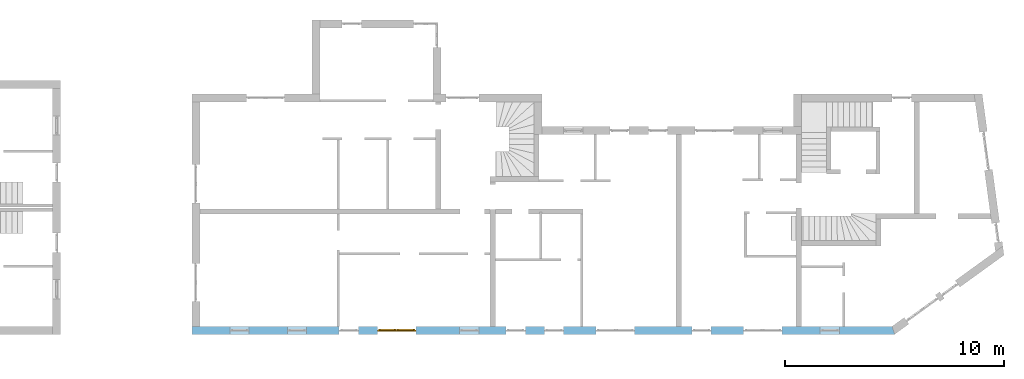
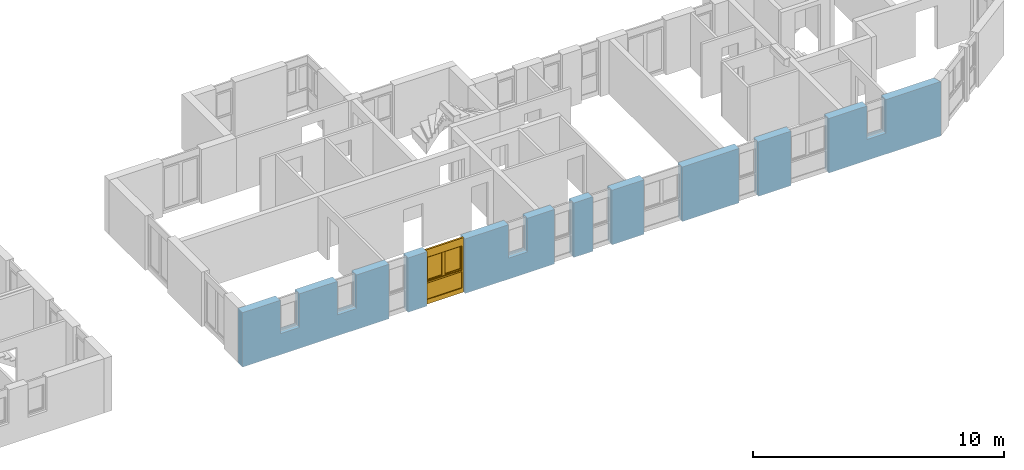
# One storey, part 27 of 42: 1 window, 11 openings, plus 1 element that does not belong to this part.
"""IFC2X3 building model written with IfcOpenShell, lengths in millimetres."""

from ifc_helpers import new_model, entity, si_unit, converted_unit, frame, frame_2d, origin, origin_with_axes, place, context, subcontext, project, spatial, polyline, rectangle, outline, extrude, faceted_brep, material, layer, layer_set, layer_usage, type_object, element, fill, save


model = new_model("IFC2X3")

# Units and contexts
model_context = context("Model", 3, precision=1e-05, world=origin())
body_context = subcontext(model_context, "Body", "Model", "MODEL_VIEW")
ifc_project = project(units=[si_unit("LENGTHUNIT", "METRE", prefix="MILLI"), converted_unit("PLANEANGLEUNIT", "DEGREE", entity("IfcPlaneAngleMeasure", 0.0174532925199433), si_unit("PLANEANGLEUNIT", "RADIAN"), dimensions=[0, 0, 0, 0, 0, 0, 0]), si_unit("AREAUNIT", "SQUARE_METRE"), si_unit("VOLUMEUNIT", "CUBIC_METRE")], contexts=[model_context])

# Building, storey
building_placement = place(None, origin())
building = spatial("IfcBuilding", under=ifc_project, at=building_placement, Name="Gebäude", CompositionType="ELEMENT")
storey_placement = place(building_placement, frame((0.0, 0.0, 2730.0), z_axis=(0.0, 0.0, 1.0), x_axis=(1.0, 0.0, 0.0)))
storey = spatial("IfcBuildingStorey", under=building, at=storey_placement, Name="OG.- Grundriss", CompositionType="ELEMENT", Elevation=2730.0)

# Wall, openings, window
ifc_material_1 = material(Name="Poroton")
ifc_layer = layer(ifc_material_1, 365.0000000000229)
ifc_layer_set = layer_set([ifc_layer])
ifc_layer_usage = layer_usage(ifc_layer_set, "AXIS2", "POSITIVE", 0.0)
wall_placement = place(storey_placement, frame((148357.7928067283, 125274.8877324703, 0.0), z_axis=(0.0, 0.0, 1.0), x_axis=(1.0, -2.749268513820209e-11, 0.0)))
wall = element("IfcWallStandardCase", 1, at=wall_placement, inside=storey, material=ifc_layer_usage, Name="<Unnamed Element>", context=body_context, shape_type="SweptSolid", body=[
    extrude(outline(polyline([(0.0, 0.0), (32144.99999877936, 0.0), (32026.74038666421, 365.0000000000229), (-1.003483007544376e-08, 365.0), (0.0, 0.0)])), origin_with_axes(), (0.0, 0.0, 1.0), 2650.0),
])
opening_1_placement = place(wall_placement, frame((22865.29648749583, -9.393166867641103e-11, 0.0), z_axis=(0.0, 1.0, 0.0), x_axis=(0.0, 0.0, 1.0)))
element("IfcOpeningElement", 2, at=opening_1_placement, cuts=wall, Name="Fensteröffnung", ObjectType="Opening", context=body_context, shape_type="SweptSolid", body=[
    extrude(rectangle(XDim=2650.0, YDim=885.0, at=frame_2d((1325.0, 442.5), x_axis=(1.0, 0.0))), origin_with_axes(), (0.0, 0.0, 1.0), 365.0000000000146),
])
opening_2_placement = place(wall_placement, frame((25240.29648749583, -1.030266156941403e-10, 0.0), z_axis=(0.0, 1.0, 0.0), x_axis=(0.0, 0.0, 1.0)))
element("IfcOpeningElement", 3, at=opening_2_placement, cuts=wall, Name="Fensteröffnung", ObjectType="Opening", context=body_context, shape_type="SweptSolid", body=[
    extrude(rectangle(XDim=2650.0, YDim=1760.0, at=frame_2d((1325.0, 880.0), x_axis=(1.0, 0.0))), origin_with_axes(), (0.0, 0.0, 1.0), 365.0000000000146),
])
opening_3_placement = place(wall_placement, frame((14365.26291869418, -5.847463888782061e-11, 0.0), z_axis=(0.0, 1.0, 0.0), x_axis=(0.0, 0.0, 1.0)))
element("IfcOpeningElement", 4, at=opening_3_placement, cuts=wall, Name="Fensteröffnung", ObjectType="Opening", context=body_context, shape_type="SweptSolid", body=[
    extrude(rectangle(XDim=2650.0, YDim=885.0, at=frame_2d((1325.0, 442.5), x_axis=(1.0, 0.0))), origin_with_axes(), (0.0, 0.0, 1.0), 365.0000000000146),
])
opening_4_placement = place(wall_placement, frame((16123.92212975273, -7.146586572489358e-11, 0.0), z_axis=(0.0, 1.0, 0.0), x_axis=(0.0, 0.0, 1.0)))
element("IfcOpeningElement", 5, at=opening_4_placement, cuts=wall, Name="Fensteröffnung", ObjectType="Opening", context=body_context, shape_type="SweptSolid", body=[
    extrude(rectangle(XDim=2650.0, YDim=885.0, at=frame_2d((1325.0, 442.5), x_axis=(1.0, 0.0))), origin_with_axes(), (0.0, 0.0, 1.0), 365.0000000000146),
])
opening_5_placement = place(wall_placement, frame((6739.999999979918, -3.114109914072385e-11, 0.0), z_axis=(0.0, 1.0, 0.0), x_axis=(0.0, 0.0, 1.0)))
element("IfcOpeningElement", 6, at=opening_5_placement, cuts=wall, Name="Fensteröffnung", ObjectType="Opening", context=body_context, shape_type="SweptSolid", body=[
    extrude(rectangle(XDim=2650.0, YDim=885.0, at=frame_2d((1325.0, 442.5), x_axis=(1.0, 0.0))), origin_with_axes(), (0.0, 0.0, 1.0), 365.0000000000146),
])
opening_6_placement = place(wall_placement, frame((8489.999999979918, -3.477907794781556e-11, 0.0), z_axis=(0.0, 1.0, 0.0), x_axis=(0.0, 0.0, 1.0)))
opening_6 = element("IfcOpeningElement", 7, at=opening_6_placement, cuts=wall, Name="Fensteröffnung", ObjectType="Opening", context=body_context, shape_type="SweptSolid", body=[
    extrude(rectangle(XDim=2650.0, YDim=1760.0, at=frame_2d((1325.0, 880.0), x_axis=(1.0, 0.0))), origin_with_axes(), (0.0, 0.0, 1.0), 365.0000000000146),
])
opening_7_placement = place(wall_placement, frame((1740.0, -3.114109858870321e-11, 1020.0), z_axis=(0.0, 1.0, 0.0), x_axis=(0.0, 0.0, 1.0)))
element("IfcOpeningElement", 8, at=opening_7_placement, cuts=wall, Name="Fensteröffnung", ObjectType="Opening", context=body_context, shape_type="SweptSolid", body=[
    extrude(rectangle(XDim=1630.0, YDim=885.0, at=frame_2d((815.0, 442.5), x_axis=(1.0, 0.0))), origin_with_axes(), (0.0, 0.0, 1.0), 365.0000000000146),
])
opening_8_placement = place(wall_placement, frame((4365.0, -7.494236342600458e-12, 1020.0), z_axis=(0.0, 1.0, 0.0), x_axis=(0.0, 0.0, 1.0)))
element("IfcOpeningElement", 9, at=opening_8_placement, cuts=wall, Name="Fensteröffnung", ObjectType="Opening", context=body_context, shape_type="SweptSolid", body=[
    extrude(rectangle(XDim=1630.0, YDim=885.0, at=frame_2d((815.0, 442.5), x_axis=(1.0, 0.0))), origin_with_axes(), (0.0, 0.0, 1.0), 365.0000000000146),
])
opening_9_placement = place(wall_placement, frame((12240.0, -5.296897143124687e-11, 1020.0), z_axis=(0.0, 1.0, 0.0), x_axis=(0.0, 0.0, 1.0)))
element("IfcOpeningElement", 10, at=opening_9_placement, cuts=wall, Name="Fensteröffnung", ObjectType="Opening", context=body_context, shape_type="SweptSolid", body=[
    extrude(rectangle(XDim=1630.0, YDim=885.0, at=frame_2d((815.0, 442.5), x_axis=(1.0, 0.0))), origin_with_axes(), (0.0, 0.0, 1.0), 365.0000000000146),
])
opening_10_placement = place(wall_placement, frame((18490.51063065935, -4.984640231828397e-11, 0.0), z_axis=(0.0, 1.0, 0.0), x_axis=(0.0, 0.0, 1.0)))
element("IfcOpeningElement", 11, at=opening_10_placement, cuts=wall, Name="Fensteröffnung", ObjectType="Opening", context=body_context, shape_type="SweptSolid", body=[
    extrude(rectangle(XDim=2650.0, YDim=1760.0, at=frame_2d((1325.0, 880.0), x_axis=(1.0, 0.0))), origin_with_axes(), (0.0, 0.0, 1.0), 365.0000000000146),
])
opening_11_placement = place(wall_placement, frame((28740.29648749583, -1.103025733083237e-10, 1020.0), z_axis=(0.0, 1.0, 0.0), x_axis=(0.0, 0.0, 1.0)))
element("IfcOpeningElement", 12, at=opening_11_placement, cuts=wall, Name="Fensteröffnung", ObjectType="Opening", context=body_context, shape_type="SweptSolid", body=[
    extrude(rectangle(XDim=1630.0, YDim=885.0, at=frame_2d((815.0, 442.5), x_axis=(1.0, 0.0))), origin_with_axes(), (0.0, 0.0, 1.0), 365.0000000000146),
])
ifc_material_2 = material()
window_style = type_object("IfcWindowStyle", Name="Fenster", ConstructionType="NOTDEFINED", OperationType="USERDEFINED", ParameterTakesPrecedence=False, Sizeable=False)
window_placement = place(opening_6_placement, frame((0.0, 0.0, 0.0), z_axis=(1.0, 0.0, 0.0), x_axis=(0.0, 1.0, 0.0)))
window = element("IfcWindow", 13, at=window_placement, inside=storey, type_object=window_style, material=ifc_material_2, Name="Fenster", OverallHeight=2650.0, OverallWidth=1760.0, context=body_context, shape_type="Brep", body=[
    faceted_brep([(1760.000000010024, 200.0000000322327, 2650.0), (1690.000000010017, 200.0000000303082, 2650.0), (1690.000000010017, 200.000000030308, -2.449293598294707e-15), (1760.000000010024, 200.0000000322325, -2.449293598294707e-15), (1760.000000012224, 119.9999999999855, 2.449293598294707e-15), (1690.000000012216, 119.999999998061, 2.449293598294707e-15), (1690.000000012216, 119.9999999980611, 2650.0), (1760.000000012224, 119.9999999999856, 2650.0), (1760.000000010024, 200.0000000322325, -2.449293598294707e-15), (1760.000000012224, 119.9999999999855, 2.449293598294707e-15), (1760.000000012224, 119.9999999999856, 2650.0), (1760.000000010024, 200.0000000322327, 2650.0), (1690.000000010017, 200.000000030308, -2.449293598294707e-15), (1690.000000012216, 119.999999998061, 2.449293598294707e-15), (1760.000000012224, 119.9999999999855, 2.449293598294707e-15), (1760.000000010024, 200.0000000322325, -2.449293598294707e-15), (1690.000000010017, 200.0000000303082, 2650.0), (1690.000000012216, 119.9999999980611, 2650.0), (1690.000000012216, 119.999999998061, 2.449293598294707e-15), (1690.000000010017, 200.000000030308, -2.449293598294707e-15), (1760.000000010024, 200.0000000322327, 2650.0), (1760.000000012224, 119.9999999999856, 2650.0), (1690.000000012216, 119.9999999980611, 2650.0), (1690.000000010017, 200.0000000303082, 2650.0)], [[[0, 1, 2, 3]], [[4, 5, 6, 7]], [[8, 9, 10, 11]], [[12, 13, 14, 15]], [[16, 17, 18, 19]], [[20, 21, 22, 23]]], orient=[[False], [False], [False], [False], [False], [False]]),
    faceted_brep([(69.99999999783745, 199.99999998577, 2650.0), (-2.17028173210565e-09, 199.9999999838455, 2650.0), (-2.17028173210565e-09, 199.9999999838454, -2.449293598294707e-15), (69.99999999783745, 199.9999999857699, -2.449293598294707e-15), (70.00000000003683, 119.9999999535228, 2.449293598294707e-15), (2.91038304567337e-11, 119.9999999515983, 2.449293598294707e-15), (2.91038304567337e-11, 119.9999999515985, 2650.0), (70.00000000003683, 119.999999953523, 2650.0), (69.99999999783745, 199.9999999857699, -2.449293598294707e-15), (70.00000000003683, 119.9999999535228, 2.449293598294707e-15), (70.00000000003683, 119.999999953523, 2650.0), (69.99999999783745, 199.99999998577, 2650.0), (-2.17028173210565e-09, 199.9999999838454, -2.449293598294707e-15), (2.91038304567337e-11, 119.9999999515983, 2.449293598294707e-15), (70.00000000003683, 119.9999999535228, 2.449293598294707e-15), (69.99999999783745, 199.9999999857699, -2.449293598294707e-15), (-2.17028173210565e-09, 199.9999999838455, 2650.0), (2.91038304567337e-11, 119.9999999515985, 2650.0), (2.91038304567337e-11, 119.9999999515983, 2.449293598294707e-15), (-2.17028173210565e-09, 199.9999999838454, -2.449293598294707e-15), (69.99999999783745, 199.99999998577, 2650.0), (70.00000000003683, 119.999999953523, 2650.0), (2.91038304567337e-11, 119.9999999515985, 2650.0), (-2.17028173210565e-09, 199.9999999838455, 2650.0)], [[[0, 1, 2, 3]], [[4, 5, 6, 7]], [[8, 9, 10, 11]], [[12, 13, 14, 15]], [[16, 17, 18, 19]], [[20, 21, 22, 23]]], orient=[[False], [False], [False], [False], [False], [False]]),
    faceted_brep([(1690.000000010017, 200.000000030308, 220.0), (69.99999999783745, 199.9999999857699, 220.0), (69.99999999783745, 199.9999999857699, -2.449293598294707e-15), (1690.000000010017, 200.000000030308, -2.449293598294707e-15), (1690.000000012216, 119.999999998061, 2.449293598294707e-15), (70.00000000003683, 119.9999999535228, 2.449293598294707e-15), (70.00000000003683, 119.9999999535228, 220.0), (1690.000000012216, 119.999999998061, 220.0), (1690.000000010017, 200.000000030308, -2.449293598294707e-15), (1690.000000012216, 119.999999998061, 2.449293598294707e-15), (1690.000000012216, 119.999999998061, 220.0), (1690.000000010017, 200.000000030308, 220.0), (69.99999999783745, 199.9999999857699, -2.449293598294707e-15), (70.00000000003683, 119.9999999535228, 2.449293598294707e-15), (1690.000000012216, 119.999999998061, 2.449293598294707e-15), (1690.000000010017, 200.000000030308, -2.449293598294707e-15), (69.99999999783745, 199.9999999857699, 220.0), (70.00000000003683, 119.9999999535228, 220.0), (70.00000000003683, 119.9999999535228, 2.449293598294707e-15), (69.99999999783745, 199.9999999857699, -2.449293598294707e-15), (1690.000000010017, 200.000000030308, 220.0), (1690.000000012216, 119.999999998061, 220.0), (70.00000000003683, 119.9999999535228, 220.0), (69.99999999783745, 199.9999999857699, 220.0)], [[[0, 1, 2, 3]], [[4, 5, 6, 7]], [[8, 9, 10, 11]], [[12, 13, 14, 15]], [[16, 17, 18, 19]], [[20, 21, 22, 23]]], orient=[[False], [False], [False], [False], [False], [False]]),
    faceted_brep([(1690.000000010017, 200.0000000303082, 2650.0), (69.99999999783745, 199.9999999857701, 2650.0), (69.99999999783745, 199.99999998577, 2280.0), (1690.000000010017, 200.0000000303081, 2280.0), (1690.000000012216, 119.9999999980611, 2280.0), (70.00000000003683, 119.999999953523, 2280.0), (70.00000000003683, 119.999999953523, 2650.0), (1690.000000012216, 119.9999999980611, 2650.0), (1690.000000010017, 200.0000000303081, 2280.0), (1690.000000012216, 119.9999999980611, 2280.0), (1690.000000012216, 119.9999999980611, 2650.0), (1690.000000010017, 200.0000000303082, 2650.0), (69.99999999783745, 199.99999998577, 2280.0), (70.00000000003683, 119.999999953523, 2280.0), (1690.000000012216, 119.9999999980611, 2280.0), (1690.000000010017, 200.0000000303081, 2280.0), (69.99999999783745, 199.9999999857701, 2650.0), (70.00000000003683, 119.999999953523, 2650.0), (70.00000000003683, 119.999999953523, 2280.0), (69.99999999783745, 199.99999998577, 2280.0), (1690.000000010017, 200.0000000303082, 2650.0), (1690.000000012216, 119.9999999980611, 2650.0), (70.00000000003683, 119.999999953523, 2650.0), (69.99999999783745, 199.9999999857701, 2650.0)], [[[0, 1, 2, 3]], [[4, 5, 6, 7]], [[8, 9, 10, 11]], [[12, 13, 14, 15]], [[16, 17, 18, 19]], [[20, 21, 22, 23]]], orient=[[False], [False], [False], [False], [False], [False]]),
    faceted_brep([(1690.000000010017, 200.0000000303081, 1090.0), (69.99999999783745, 199.9999999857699, 1090.0), (69.99999999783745, 199.9999999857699, 1020.0), (1690.000000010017, 200.0000000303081, 1020.0), (1690.000000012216, 119.999999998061, 1020.0), (70.00000000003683, 119.9999999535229, 1020.0), (70.00000000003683, 119.9999999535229, 1090.0), (1690.000000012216, 119.999999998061, 1090.0), (1690.000000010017, 200.0000000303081, 1020.0), (1690.000000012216, 119.999999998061, 1020.0), (1690.000000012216, 119.999999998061, 1090.0), (1690.000000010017, 200.0000000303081, 1090.0), (69.99999999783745, 199.9999999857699, 1020.0), (70.00000000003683, 119.9999999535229, 1020.0), (1690.000000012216, 119.999999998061, 1020.0), (1690.000000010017, 200.0000000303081, 1020.0), (69.99999999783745, 199.9999999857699, 1090.0), (70.00000000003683, 119.9999999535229, 1090.0), (70.00000000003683, 119.9999999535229, 1020.0), (69.99999999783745, 199.9999999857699, 1020.0), (1690.000000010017, 200.0000000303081, 1090.0), (1690.000000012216, 119.999999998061, 1090.0), (70.00000000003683, 119.9999999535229, 1090.0), (69.99999999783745, 199.9999999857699, 1090.0)], [[[0, 1, 2, 3]], [[4, 5, 6, 7]], [[8, 9, 10, 11]], [[12, 13, 14, 15]], [[16, 17, 18, 19]], [[20, 21, 22, 23]]], orient=[[False], [False], [False], [False], [False], [False]]),
    faceted_brep([(1690.000000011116, 160.0000000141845, 220.0), (1690.000000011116, 160.0000000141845, 1020.0), (69.99999999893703, 159.9999999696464, 1020.0), (69.99999999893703, 159.9999999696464, 220.0), (1690.000000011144, 159.0000000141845, 220.0), (69.99999999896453, 158.9999999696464, 220.0), (69.99999999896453, 158.9999999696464, 1020.0), (1690.000000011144, 159.0000000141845, 1020.0), (1690.000000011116, 160.0000000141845, 220.0), (1690.000000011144, 159.0000000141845, 220.0), (1690.000000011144, 159.0000000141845, 1020.0), (1690.000000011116, 160.0000000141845, 1020.0), (1690.000000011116, 160.0000000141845, 1020.0), (1690.000000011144, 159.0000000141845, 1020.0), (69.99999999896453, 158.9999999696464, 1020.0), (69.99999999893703, 159.9999999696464, 1020.0), (69.99999999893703, 159.9999999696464, 1020.0), (69.99999999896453, 158.9999999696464, 1020.0), (69.99999999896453, 158.9999999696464, 220.0), (69.99999999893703, 159.9999999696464, 220.0), (69.99999999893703, 159.9999999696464, 220.0), (69.99999999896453, 158.9999999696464, 220.0), (1690.000000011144, 159.0000000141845, 220.0), (1690.000000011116, 160.0000000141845, 220.0)], [[[0, 1, 2, 3]], [[4, 5, 6, 7]], [[8, 9, 10, 11]], [[12, 13, 14, 15]], [[16, 17, 18, 19]], [[20, 21, 22, 23]]], orient=[[False], [False], [False], [False], [False], [False]]),
    faceted_brep([(1710.000000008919, 240.0000000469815, 2300.0), (1640.000000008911, 240.000000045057, 2300.0), (1640.000000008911, 240.0000000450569, 1070.0), (1710.000000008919, 240.0000000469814, 1070.0), (1710.000000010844, 170.0000000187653, 1070.0), (1640.000000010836, 170.0000000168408, 1070.0), (1640.000000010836, 170.0000000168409, 2300.0), (1710.000000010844, 170.0000000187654, 2300.0), (1710.000000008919, 240.0000000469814, 1070.0), (1710.000000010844, 170.0000000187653, 1070.0), (1710.000000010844, 170.0000000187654, 2300.0), (1710.000000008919, 240.0000000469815, 2300.0), (1640.000000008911, 240.0000000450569, 1070.0), (1640.000000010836, 170.0000000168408, 1070.0), (1710.000000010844, 170.0000000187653, 1070.0), (1710.000000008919, 240.0000000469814, 1070.0), (1640.000000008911, 240.000000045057, 2300.0), (1640.000000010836, 170.0000000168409, 2300.0), (1640.000000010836, 170.0000000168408, 1070.0), (1640.000000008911, 240.0000000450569, 1070.0), (1710.000000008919, 240.0000000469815, 2300.0), (1710.000000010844, 170.0000000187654, 2300.0), (1640.000000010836, 170.0000000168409, 2300.0), (1640.000000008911, 240.000000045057, 2300.0)], [[[0, 1, 2, 3]], [[4, 5, 6, 7]], [[8, 9, 10, 11]], [[12, 13, 14, 15]], [[16, 17, 18, 19]], [[20, 21, 22, 23]]], orient=[[False], [False], [False], [False], [False], [False]]),
    faceted_brep([(930.5000000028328, 240.000000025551, 2300.0), (860.5000000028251, 240.0000000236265, 2300.0), (860.5000000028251, 240.0000000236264, 1070.0), (930.5000000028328, 240.0000000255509, 1070.0), (930.5000000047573, 169.9999999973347, 1070.0), (860.5000000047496, 169.9999999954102, 1070.0), (860.5000000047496, 169.9999999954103, 2300.0), (930.5000000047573, 169.9999999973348, 2300.0), (930.5000000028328, 240.0000000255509, 1070.0), (930.5000000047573, 169.9999999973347, 1070.0), (930.5000000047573, 169.9999999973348, 2300.0), (930.5000000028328, 240.000000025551, 2300.0), (860.5000000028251, 240.0000000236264, 1070.0), (860.5000000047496, 169.9999999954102, 1070.0), (930.5000000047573, 169.9999999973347, 1070.0), (930.5000000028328, 240.0000000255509, 1070.0), (860.5000000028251, 240.0000000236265, 2300.0), (860.5000000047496, 169.9999999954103, 2300.0), (860.5000000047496, 169.9999999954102, 1070.0), (860.5000000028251, 240.0000000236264, 1070.0), (930.5000000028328, 240.000000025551, 2300.0), (930.5000000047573, 169.9999999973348, 2300.0), (860.5000000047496, 169.9999999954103, 2300.0), (860.5000000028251, 240.0000000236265, 2300.0)], [[[0, 1, 2, 3]], [[4, 5, 6, 7]], [[8, 9, 10, 11]], [[12, 13, 14, 15]], [[16, 17, 18, 19]], [[20, 21, 22, 23]]], orient=[[False], [False], [False], [False], [False], [False]]),
    faceted_brep([(1640.000000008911, 240.0000000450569, 1140.0), (930.5000000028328, 240.0000000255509, 1140.0), (930.5000000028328, 240.0000000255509, 1070.0), (1640.000000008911, 240.0000000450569, 1070.0), (1640.000000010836, 170.0000000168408, 1070.0), (930.5000000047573, 169.9999999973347, 1070.0), (930.5000000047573, 169.9999999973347, 1140.0), (1640.000000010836, 170.0000000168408, 1140.0), (1640.000000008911, 240.0000000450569, 1070.0), (1640.000000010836, 170.0000000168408, 1070.0), (1640.000000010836, 170.0000000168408, 1140.0), (1640.000000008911, 240.0000000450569, 1140.0), (930.5000000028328, 240.0000000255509, 1070.0), (930.5000000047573, 169.9999999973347, 1070.0), (1640.000000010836, 170.0000000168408, 1070.0), (1640.000000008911, 240.0000000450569, 1070.0), (930.5000000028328, 240.0000000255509, 1140.0), (930.5000000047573, 169.9999999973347, 1140.0), (930.5000000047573, 169.9999999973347, 1070.0), (930.5000000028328, 240.0000000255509, 1070.0), (1640.000000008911, 240.0000000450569, 1140.0), (1640.000000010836, 170.0000000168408, 1140.0), (930.5000000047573, 169.9999999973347, 1140.0), (930.5000000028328, 240.0000000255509, 1140.0)], [[[0, 1, 2, 3]], [[4, 5, 6, 7]], [[8, 9, 10, 11]], [[12, 13, 14, 15]], [[16, 17, 18, 19]], [[20, 21, 22, 23]]], orient=[[False], [False], [False], [False], [False], [False]]),
    faceted_brep([(1640.000000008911, 240.000000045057, 2300.0), (930.5000000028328, 240.000000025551, 2300.0), (930.5000000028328, 240.000000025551, 2230.0), (1640.000000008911, 240.000000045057, 2230.0), (1640.000000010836, 170.0000000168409, 2230.0), (930.5000000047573, 169.9999999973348, 2230.0), (930.5000000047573, 169.9999999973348, 2300.0), (1640.000000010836, 170.0000000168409, 2300.0), (1640.000000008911, 240.000000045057, 2230.0), (1640.000000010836, 170.0000000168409, 2230.0), (1640.000000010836, 170.0000000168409, 2300.0), (1640.000000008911, 240.000000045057, 2300.0), (930.5000000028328, 240.000000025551, 2230.0), (930.5000000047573, 169.9999999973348, 2230.0), (1640.000000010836, 170.0000000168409, 2230.0), (1640.000000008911, 240.000000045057, 2230.0), (930.5000000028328, 240.000000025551, 2300.0), (930.5000000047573, 169.9999999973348, 2300.0), (930.5000000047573, 169.9999999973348, 2230.0), (930.5000000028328, 240.000000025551, 2230.0), (1640.000000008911, 240.000000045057, 2300.0), (1640.000000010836, 170.0000000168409, 2300.0), (930.5000000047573, 169.9999999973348, 2300.0), (930.5000000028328, 240.000000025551, 2300.0)], [[[0, 1, 2, 3]], [[4, 5, 6, 7]], [[8, 9, 10, 11]], [[12, 13, 14, 15]], [[16, 17, 18, 19]], [[20, 21, 22, 23]]], orient=[[False], [False], [False], [False], [False], [False]]),
    faceted_brep([(859.500000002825, 240.000000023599, 2300.0), (789.5000000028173, 240.0000000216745, 2300.0), (789.5000000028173, 240.0000000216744, 1070.0), (859.500000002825, 240.0000000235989, 1070.0), (859.5000000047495, 169.9999999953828, 1070.0), (789.5000000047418, 169.9999999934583, 1070.0), (789.5000000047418, 169.9999999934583, 2300.0), (859.5000000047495, 169.9999999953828, 2300.0), (859.500000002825, 240.0000000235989, 1070.0), (859.5000000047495, 169.9999999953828, 1070.0), (859.5000000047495, 169.9999999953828, 2300.0), (859.500000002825, 240.000000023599, 2300.0), (789.5000000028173, 240.0000000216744, 1070.0), (789.5000000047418, 169.9999999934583, 1070.0), (859.5000000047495, 169.9999999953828, 1070.0), (859.500000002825, 240.0000000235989, 1070.0), (789.5000000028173, 240.0000000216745, 2300.0), (789.5000000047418, 169.9999999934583, 2300.0), (789.5000000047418, 169.9999999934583, 1070.0), (789.5000000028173, 240.0000000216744, 1070.0), (859.500000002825, 240.000000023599, 2300.0), (859.5000000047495, 169.9999999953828, 2300.0), (789.5000000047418, 169.9999999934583, 2300.0), (789.5000000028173, 240.0000000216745, 2300.0)], [[[0, 1, 2, 3]], [[4, 5, 6, 7]], [[8, 9, 10, 11]], [[12, 13, 14, 15]], [[16, 17, 18, 19]], [[20, 21, 22, 23]]], orient=[[False], [False], [False], [False], [False], [False]]),
    faceted_brep([(119.9999999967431, 240.0000000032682, 2300.0), (49.99999999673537, 240.0000000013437, 2300.0), (49.99999999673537, 240.0000000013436, 1070.0), (119.9999999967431, 240.0000000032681, 1070.0), (119.9999999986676, 169.9999999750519, 1070.0), (49.99999999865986, 169.9999999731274, 1070.0), (49.99999999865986, 169.9999999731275, 2300.0), (119.9999999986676, 169.999999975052, 2300.0), (119.9999999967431, 240.0000000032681, 1070.0), (119.9999999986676, 169.9999999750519, 1070.0), (119.9999999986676, 169.999999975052, 2300.0), (119.9999999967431, 240.0000000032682, 2300.0), (49.99999999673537, 240.0000000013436, 1070.0), (49.99999999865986, 169.9999999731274, 1070.0), (119.9999999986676, 169.9999999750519, 1070.0), (119.9999999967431, 240.0000000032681, 1070.0), (49.99999999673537, 240.0000000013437, 2300.0), (49.99999999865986, 169.9999999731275, 2300.0), (49.99999999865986, 169.9999999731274, 1070.0), (49.99999999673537, 240.0000000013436, 1070.0), (119.9999999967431, 240.0000000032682, 2300.0), (119.9999999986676, 169.999999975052, 2300.0), (49.99999999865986, 169.9999999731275, 2300.0), (49.99999999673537, 240.0000000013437, 2300.0)], [[[0, 1, 2, 3]], [[4, 5, 6, 7]], [[8, 9, 10, 11]], [[12, 13, 14, 15]], [[16, 17, 18, 19]], [[20, 21, 22, 23]]], orient=[[False], [False], [False], [False], [False], [False]]),
    faceted_brep([(789.5000000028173, 240.0000000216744, 1140.0), (119.9999999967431, 240.0000000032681, 1140.0), (119.9999999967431, 240.0000000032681, 1070.0), (789.5000000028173, 240.0000000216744, 1070.0), (789.5000000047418, 169.9999999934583, 1070.0), (119.9999999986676, 169.9999999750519, 1070.0), (119.9999999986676, 169.9999999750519, 1140.0), (789.5000000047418, 169.9999999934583, 1140.0), (789.5000000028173, 240.0000000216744, 1070.0), (789.5000000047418, 169.9999999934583, 1070.0), (789.5000000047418, 169.9999999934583, 1140.0), (789.5000000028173, 240.0000000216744, 1140.0), (119.9999999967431, 240.0000000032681, 1070.0), (119.9999999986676, 169.9999999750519, 1070.0), (789.5000000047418, 169.9999999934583, 1070.0), (789.5000000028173, 240.0000000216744, 1070.0), (119.9999999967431, 240.0000000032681, 1140.0), (119.9999999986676, 169.9999999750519, 1140.0), (119.9999999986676, 169.9999999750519, 1070.0), (119.9999999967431, 240.0000000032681, 1070.0), (789.5000000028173, 240.0000000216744, 1140.0), (789.5000000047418, 169.9999999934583, 1140.0), (119.9999999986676, 169.9999999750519, 1140.0), (119.9999999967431, 240.0000000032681, 1140.0)], [[[0, 1, 2, 3]], [[4, 5, 6, 7]], [[8, 9, 10, 11]], [[12, 13, 14, 15]], [[16, 17, 18, 19]], [[20, 21, 22, 23]]], orient=[[False], [False], [False], [False], [False], [False]]),
    faceted_brep([(789.5000000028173, 240.0000000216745, 2300.0), (119.9999999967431, 240.0000000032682, 2300.0), (119.9999999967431, 240.0000000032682, 2230.0), (789.5000000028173, 240.0000000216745, 2230.0), (789.5000000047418, 169.9999999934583, 2230.0), (119.9999999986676, 169.999999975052, 2230.0), (119.9999999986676, 169.999999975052, 2300.0), (789.5000000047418, 169.9999999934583, 2300.0), (789.5000000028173, 240.0000000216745, 2230.0), (789.5000000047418, 169.9999999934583, 2230.0), (789.5000000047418, 169.9999999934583, 2300.0), (789.5000000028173, 240.0000000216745, 2300.0), (119.9999999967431, 240.0000000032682, 2230.0), (119.9999999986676, 169.999999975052, 2230.0), (789.5000000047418, 169.9999999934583, 2230.0), (789.5000000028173, 240.0000000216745, 2230.0), (119.9999999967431, 240.0000000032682, 2300.0), (119.9999999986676, 169.999999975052, 2300.0), (119.9999999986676, 169.999999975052, 2230.0), (119.9999999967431, 240.0000000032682, 2230.0), (789.5000000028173, 240.0000000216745, 2300.0), (789.5000000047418, 169.9999999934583, 2300.0), (119.9999999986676, 169.999999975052, 2300.0), (119.9999999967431, 240.0000000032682, 2300.0)], [[[0, 1, 2, 3]], [[4, 5, 6, 7]], [[8, 9, 10, 11]], [[12, 13, 14, 15]], [[16, 17, 18, 19]], [[20, 21, 22, 23]]], orient=[[False], [False], [False], [False], [False], [False]]),
    faceted_brep([(1640.000000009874, 205.0000000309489, 1140.0), (1640.000000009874, 205.000000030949, 2230.0), (930.5000000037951, 205.0000000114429, 2230.0), (930.5000000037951, 205.0000000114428, 1140.0), (1640.000000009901, 204.0000000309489, 1140.0), (930.5000000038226, 204.0000000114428, 1140.0), (930.5000000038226, 204.0000000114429, 2230.0), (1640.000000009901, 204.000000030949, 2230.0), (1640.000000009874, 205.0000000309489, 1140.0), (1640.000000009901, 204.0000000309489, 1140.0), (1640.000000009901, 204.000000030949, 2230.0), (1640.000000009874, 205.000000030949, 2230.0), (1640.000000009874, 205.000000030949, 2230.0), (1640.000000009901, 204.000000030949, 2230.0), (930.5000000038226, 204.0000000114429, 2230.0), (930.5000000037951, 205.0000000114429, 2230.0), (930.5000000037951, 205.0000000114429, 2230.0), (930.5000000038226, 204.0000000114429, 2230.0), (930.5000000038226, 204.0000000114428, 1140.0), (930.5000000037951, 205.0000000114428, 1140.0), (930.5000000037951, 205.0000000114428, 1140.0), (930.5000000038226, 204.0000000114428, 1140.0), (1640.000000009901, 204.0000000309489, 1140.0), (1640.000000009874, 205.0000000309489, 1140.0)], [[[0, 1, 2, 3]], [[4, 5, 6, 7]], [[8, 9, 10, 11]], [[12, 13, 14, 15]], [[16, 17, 18, 19]], [[20, 21, 22, 23]]], orient=[[False], [False], [False], [False], [False], [False]]),
    faceted_brep([(789.5000000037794, 205.0000000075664, 1140.0), (789.5000000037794, 205.0000000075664, 2230.0), (119.9999999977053, 204.9999999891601, 2230.0), (119.9999999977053, 204.99999998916, 1140.0), (789.5000000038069, 204.0000000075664, 1140.0), (119.9999999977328, 203.99999998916, 1140.0), (119.9999999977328, 203.9999999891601, 2230.0), (789.5000000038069, 204.0000000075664, 2230.0), (789.5000000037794, 205.0000000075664, 1140.0), (789.5000000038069, 204.0000000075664, 1140.0), (789.5000000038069, 204.0000000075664, 2230.0), (789.5000000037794, 205.0000000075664, 2230.0), (789.5000000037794, 205.0000000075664, 2230.0), (789.5000000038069, 204.0000000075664, 2230.0), (119.9999999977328, 203.9999999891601, 2230.0), (119.9999999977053, 204.9999999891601, 2230.0), (119.9999999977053, 204.9999999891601, 2230.0), (119.9999999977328, 203.9999999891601, 2230.0), (119.9999999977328, 203.99999998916, 1140.0), (119.9999999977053, 204.99999998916, 1140.0), (119.9999999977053, 204.99999998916, 1140.0), (119.9999999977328, 203.99999998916, 1140.0), (789.5000000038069, 204.0000000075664, 1140.0), (789.5000000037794, 205.0000000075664, 1140.0)], [[[0, 1, 2, 3]], [[4, 5, 6, 7]], [[8, 9, 10, 11]], [[12, 13, 14, 15]], [[16, 17, 18, 19]], [[20, 21, 22, 23]]], orient=[[False], [False], [False], [False], [False], [False]]),
])
fill(opening_6, window)

save(model, "model.ifc")
